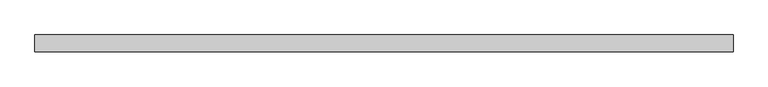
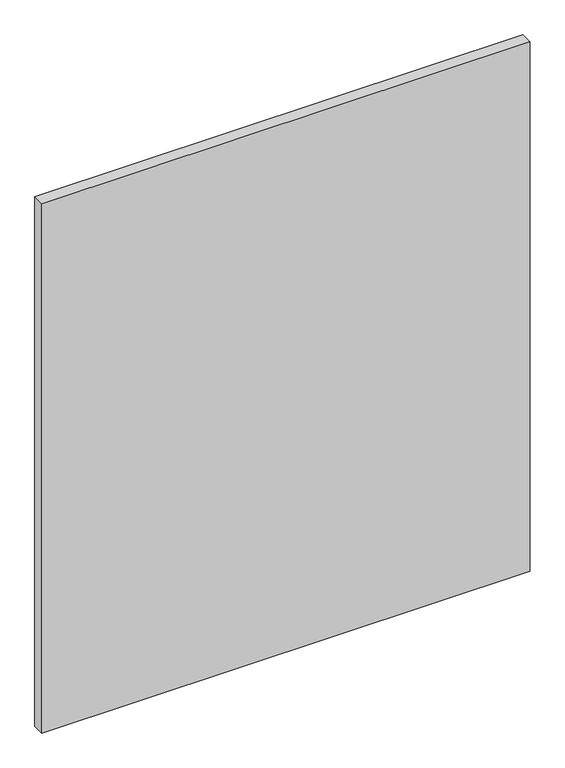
"""IFC4 building model written with IfcOpenShell, lengths in millimetres: plate geometry, Системная панель : С остеклением."""

from ifc_helpers import new_model, si_unit, origin, origin_with_axes, place, context, project, spatial, polyline, outline, extrude, source, transform, mapped, element, save


def plate_97cba745(model_context):
    return source(origin(), model_context, "Body", "SweptSolid", [
        extrude(outline(polyline([(512.6517207, 24.5), (-512.6517207, 24.5), (-512.6517207, 49.5), (512.6517207, 49.5), (512.6517207, 24.5)])), origin_with_axes(), (0.0, 0.0, 1.0), 1175.0),
    ])


if __name__ == "__main__":
    model = new_model("IFC4")
    model_context = context("Model", 3, world=origin())
    ifc_project = project(units=[si_unit("LENGTHUNIT", "METRE", prefix="MILLI")], contexts=[model_context])
    site = spatial("IfcSite", under=ifc_project)
    building = spatial("IfcBuilding", under=site)
    placement = place(None, origin())
    plate_shape = plate_97cba745(model_context)
    element("IfcPlate", 1, ObjectType="Системная панель : С остеклением", at=placement, inside=building, context=model_context, shape_type="MappedRepresentation", body=[
        mapped(plate_shape, transform((0.0, 0.0, 0.0), x_axis=(1.0, 0.0, 0.0), y_axis=(0.0, 1.0, 0.0), z_axis=(0.0, 0.0, 1.0))),
    ])
    save(model, "model.ifc")
